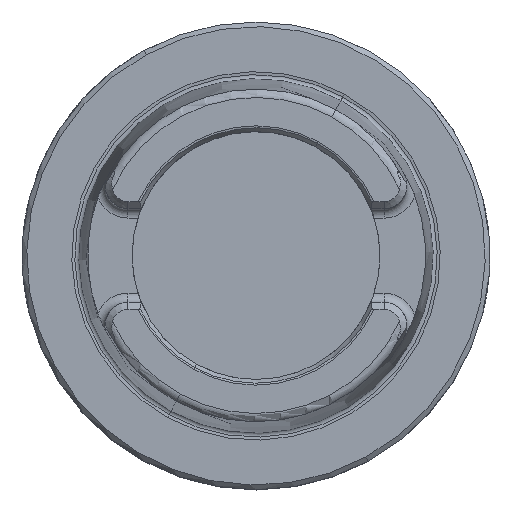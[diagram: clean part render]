
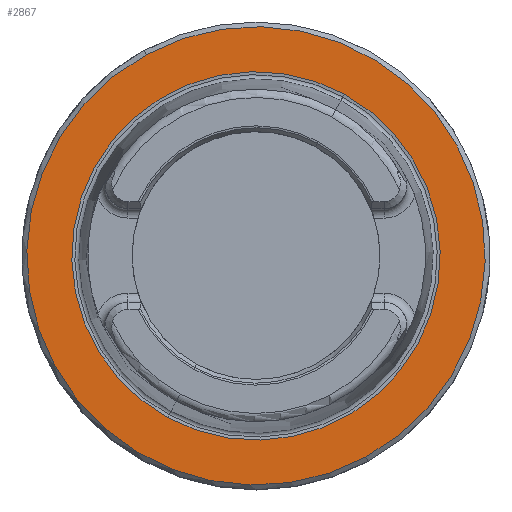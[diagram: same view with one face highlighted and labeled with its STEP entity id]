
A CAD part, top view. The second image highlights one B-rep face of the part: STEP entity #2867.
In plain terms, the highlighted planar face has unit normal (0, 0, 1).
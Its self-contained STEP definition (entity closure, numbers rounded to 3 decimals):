
#2797=AXIS2_PLACEMENT_3D('Circle Axis2P3D',#2795,#2796,$) ;
#2817=AXIS2_PLACEMENT_3D('Circle Axis2P3D',#2815,#2816,$) ;
#2843=AXIS2_PLACEMENT_3D('Plane Axis2P3D',#2840,#2841,#2842) ;
#2851=AXIS2_PLACEMENT_3D('Circle Axis2P3D',#2849,#2850,$) ;
#2860=AXIS2_PLACEMENT_3D('Circle Axis2P3D',#2858,#2859,$) ;
#2792=CARTESIAN_POINT('Vertex',(23.492,-43.002,0.)) ;
#2795=CARTESIAN_POINT('Axis2P3D Location',(0.,0.,0.)) ;
#2799=CARTESIAN_POINT('Vertex',(-23.492,43.002,0.)) ;
#2815=CARTESIAN_POINT('Axis2P3D Location',(0.,0.,0.)) ;
#2840=CARTESIAN_POINT('Axis2P3D Location',(0.,-38.285,0.)) ;
#2849=CARTESIAN_POINT('Axis2P3D Location',(0.,0.,0.)) ;
#2853=CARTESIAN_POINT('Vertex',(18.88,34.56,0.)) ;
#2855=CARTESIAN_POINT('Vertex',(-18.88,-34.56,0.)) ;
#2858=CARTESIAN_POINT('Axis2P3D Location',(0.,0.,0.)) ;
#2796=DIRECTION('Axis2P3D Direction',(0.,0.,-1.)) ;
#2816=DIRECTION('Axis2P3D Direction',(0.,0.,-1.)) ;
#2841=DIRECTION('Axis2P3D Direction',(0.,0.,-1.)) ;
#2842=DIRECTION('Axis2P3D XDirection',(-1.,0.,0.)) ;
#2850=DIRECTION('Axis2P3D Direction',(0.,0.,-1.)) ;
#2859=DIRECTION('Axis2P3D Direction',(0.,0.,-1.)) ;
#2846=ORIENTED_EDGE('',*,*,#2801,.F.) ;
#2847=ORIENTED_EDGE('',*,*,#2819,.F.) ;
#2864=ORIENTED_EDGE('',*,*,#2857,.T.) ;
#2865=ORIENTED_EDGE('',*,*,#2862,.T.) ;
#2866=FACE_BOUND('',#2863,.T.) ;
#2867=ADVANCED_FACE('NO_CUT',(#2848,#2866),#2844,.F.) ;
#2798=CIRCLE('generated circle',#2797,49.) ;
#2818=CIRCLE('generated circle',#2817,49.) ;
#2852=CIRCLE('generated circle',#2851,39.381) ;
#2861=CIRCLE('generated circle',#2860,39.381) ;
#2801=EDGE_CURVE('',#2793,#2800,#2798,.T.) ;
#2819=EDGE_CURVE('',#2800,#2793,#2818,.T.) ;
#2857=EDGE_CURVE('',#2854,#2856,#2852,.T.) ;
#2862=EDGE_CURVE('',#2856,#2854,#2861,.T.) ;
#2845=EDGE_LOOP('',(#2846,#2847)) ;
#2863=EDGE_LOOP('',(#2864,#2865)) ;
#2848=FACE_OUTER_BOUND('',#2845,.T.) ;
#2844=PLANE('',#2843) ;
#2793=VERTEX_POINT('',#2792) ;
#2800=VERTEX_POINT('',#2799) ;
#2854=VERTEX_POINT('',#2853) ;
#2856=VERTEX_POINT('',#2855) ;
